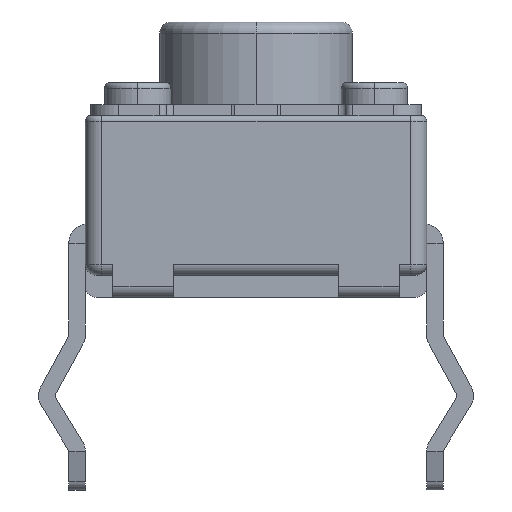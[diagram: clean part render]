
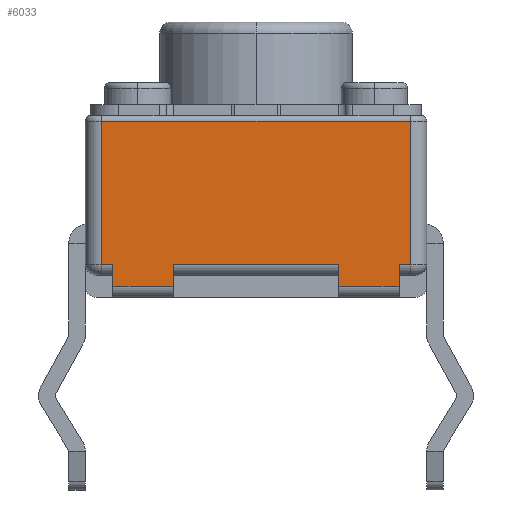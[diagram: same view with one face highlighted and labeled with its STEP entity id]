
A CAD part, front view. The second image highlights one B-rep face of the part: STEP entity #6033.
In plain terms, the highlighted planar face has unit normal (0, -1, 0).
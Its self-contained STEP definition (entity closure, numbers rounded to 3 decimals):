
#149 = CARTESIAN_POINT ( 'NONE',  ( 2.8, -3.1, 3.2 ) ) ;
#150 = DIRECTION ( 'NONE',  ( 1., 0., 0. ) ) ;
#151 = VECTOR ( 'NONE', #150, 1000. ) ;
#152 = CARTESIAN_POINT ( 'NONE',  ( 0., -3.1, 3.2 ) ) ;
#153 = LINE ( 'NONE', #152, #151 ) ;
#154 = CARTESIAN_POINT ( 'NONE',  ( -2.8, -3.1, 3.2 ) ) ;
#183 = VECTOR ( 'NONE', #227, 1000. ) ;
#184 = CARTESIAN_POINT ( 'NONE',  ( 2.6, -3.1, 0.4 ) ) ;
#185 = LINE ( 'NONE', #184, #183 ) ;
#211 = CARTESIAN_POINT ( 'NONE',  ( 2.6, -3.1, 0.6 ) ) ;
#226 = CARTESIAN_POINT ( 'NONE',  ( 2.6, -3.1, 0.2 ) ) ;
#227 = DIRECTION ( 'NONE',  ( 0., 0., -1. ) ) ;
#832 = DIRECTION ( 'NONE',  ( -1., 0., 0. ) ) ;
#833 = VECTOR ( 'NONE', #832, 1000. ) ;
#834 = CARTESIAN_POINT ( 'NONE',  ( 0., -3.1, 0.6 ) ) ;
#836 = LINE ( 'NONE', #834, #833 ) ;
#920 = CARTESIAN_POINT ( 'NONE',  ( -2.6, -3.1, 0.6 ) ) ;
#921 = CARTESIAN_POINT ( 'NONE',  ( -2.6, -3.1, 0.2 ) ) ;
#922 = DIRECTION ( 'NONE',  ( 0., 0., 1. ) ) ;
#923 = VECTOR ( 'NONE', #922, 1000. ) ;
#924 = CARTESIAN_POINT ( 'NONE',  ( -2.6, -3.1, 0.4 ) ) ;
#925 = LINE ( 'NONE', #924, #923 ) ;
#4927 = EDGE_CURVE ( 'NONE', #4961, #4941, #9669, .T. ) ;
#4941 = VERTEX_POINT ( 'NONE', #9702 ) ;
#4961 = VERTEX_POINT ( 'NONE', #9993 ) ;
#4968 = EDGE_CURVE ( 'NONE', #4971, #4972, #10172, .T. ) ;
#4971 = VERTEX_POINT ( 'NONE', #9955 ) ;
#4972 = VERTEX_POINT ( 'NONE', #9954 ) ;
#5328 = VERTEX_POINT ( 'NONE', #154 ) ;
#5330 = EDGE_CURVE ( 'NONE', #5328, #5331, #153, .T. ) ;
#5331 = VERTEX_POINT ( 'NONE', #149 ) ;
#5370 = EDGE_CURVE ( 'NONE', #5380, #5371, #185, .T. ) ;
#5371 = VERTEX_POINT ( 'NONE', #226 ) ;
#5380 = VERTEX_POINT ( 'NONE', #211 ) ;
#5581 = EDGE_CURVE ( 'NONE', #5582, #5587, #925, .T. ) ;
#5582 = VERTEX_POINT ( 'NONE', #921 ) ;
#5587 = VERTEX_POINT ( 'NONE', #920 ) ;
#5625 = EDGE_CURVE ( 'NONE', #4972, #4961, #836, .T. ) ;
#5767 = EDGE_CURVE ( 'NONE', #4941, #5582, #12768, .T. ) ;
#5857 = EDGE_CURVE ( 'NONE', #5587, #5858, #7168, .T. ) ;
#5858 = VERTEX_POINT ( 'NONE', #7208 ) ;
#5873 = EDGE_CURVE ( 'NONE', #5371, #4971, #7548, .T. ) ;
#5874 = EDGE_CURVE ( 'NONE', #5899, #5380, #7615, .T. ) ;
#5899 = VERTEX_POINT ( 'NONE', #8036 ) ;
#5920 = ORIENTED_EDGE ( 'NONE', *, *, #5625, .F. ) ;
#5955 = ORIENTED_EDGE ( 'NONE', *, *, #4968, .F. ) ;
#5956 = ORIENTED_EDGE ( 'NONE', *, *, #5873, .F. ) ;
#5961 = ORIENTED_EDGE ( 'NONE', *, *, #5581, .F. ) ;
#5969 = ORIENTED_EDGE ( 'NONE', *, *, #5767, .F. ) ;
#5970 = ORIENTED_EDGE ( 'NONE', *, *, #4927, .F. ) ;
#6033 = ADVANCED_FACE ( 'NONE', ( #8891 ), #8804, .F. ) ;
#6034 = EDGE_LOOP ( 'NONE', ( #6035, #6036, #6063, #6065, #6054, #6056, #5961, #5969, #5970, #5920, #5955, #5956 ) ) ;
#6035 = ORIENTED_EDGE ( 'NONE', *, *, #5370, .F. ) ;
#6036 = ORIENTED_EDGE ( 'NONE', *, *, #5874, .F. ) ;
#6054 = ORIENTED_EDGE ( 'NONE', *, *, #6055, .F. ) ;
#6055 = EDGE_CURVE ( 'NONE', #5858, #5328, #8991, .T. ) ;
#6056 = ORIENTED_EDGE ( 'NONE', *, *, #5857, .F. ) ;
#6063 = ORIENTED_EDGE ( 'NONE', *, *, #6064, .F. ) ;
#6064 = EDGE_CURVE ( 'NONE', #5331, #5899, #9294, .T. ) ;
#6065 = ORIENTED_EDGE ( 'NONE', *, *, #5330, .F. ) ;
#7121 = DIRECTION ( 'NONE',  ( 0., 0., 1. ) ) ;
#7145 = DIRECTION ( 'NONE',  ( -1., 0., 0. ) ) ;
#7146 = VECTOR ( 'NONE', #7145, 1000. ) ;
#7147 = CARTESIAN_POINT ( 'NONE',  ( 0., -3.1, 0.6 ) ) ;
#7168 = LINE ( 'NONE', #7147, #7146 ) ;
#7208 = CARTESIAN_POINT ( 'NONE',  ( -2.8, -3.1, 0.6 ) ) ;
#7548 = LINE ( 'NONE', #7623, #7621 ) ;
#7609 = DIRECTION ( 'NONE',  ( -1., 0., 0. ) ) ;
#7610 = VECTOR ( 'NONE', #7609, 1000. ) ;
#7612 = CARTESIAN_POINT ( 'NONE',  ( 0., -3.1, 0.6 ) ) ;
#7615 = LINE ( 'NONE', #7612, #7610 ) ;
#7619 = DIRECTION ( 'NONE',  ( -1., 0., 0. ) ) ;
#7621 = VECTOR ( 'NONE', #7619, 1000. ) ;
#7623 = CARTESIAN_POINT ( 'NONE',  ( 0., -3.1, 0.2 ) ) ;
#8036 = CARTESIAN_POINT ( 'NONE',  ( 2.8, -3.1, 0.6 ) ) ;
#8796 = DIRECTION ( 'NONE',  ( 0., 1., 0. ) ) ;
#8797 = CARTESIAN_POINT ( 'NONE',  ( 0., -3.1, 3.3 ) ) ;
#8799 = AXIS2_PLACEMENT_3D ( 'NONE', #8797, #8796, #8898 ) ;
#8804 = PLANE ( 'NONE',  #8799 ) ;
#8891 = FACE_OUTER_BOUND ( 'NONE', #6034, .T. ) ;
#8898 = DIRECTION ( 'NONE',  ( 0., 0., 1. ) ) ;
#8989 = VECTOR ( 'NONE', #7121, 1000. ) ;
#8990 = CARTESIAN_POINT ( 'NONE',  ( -2.8, -3.1, 3.3 ) ) ;
#8991 = LINE ( 'NONE', #8990, #8989 ) ;
#9180 = DIRECTION ( 'NONE',  ( 0., 0., -1. ) ) ;
#9181 = VECTOR ( 'NONE', #9180, 1000. ) ;
#9183 = CARTESIAN_POINT ( 'NONE',  ( 2.8, -3.1, 3.3 ) ) ;
#9294 = LINE ( 'NONE', #9183, #9181 ) ;
#9666 = DIRECTION ( 'NONE',  ( 0., 0., -1. ) ) ;
#9667 = VECTOR ( 'NONE', #9666, 1000. ) ;
#9668 = CARTESIAN_POINT ( 'NONE',  ( -1.5, -3.1, 0.4 ) ) ;
#9669 = LINE ( 'NONE', #9668, #9667 ) ;
#9702 = CARTESIAN_POINT ( 'NONE',  ( -1.5, -3.1, 0.2 ) ) ;
#9954 = CARTESIAN_POINT ( 'NONE',  ( 1.5, -3.1, 0.6 ) ) ;
#9955 = CARTESIAN_POINT ( 'NONE',  ( 1.5, -3.1, 0.2 ) ) ;
#9993 = CARTESIAN_POINT ( 'NONE',  ( -1.5, -3.1, 0.6 ) ) ;
#10168 = DIRECTION ( 'NONE',  ( 0., 0., 1. ) ) ;
#10169 = VECTOR ( 'NONE', #10168, 1000. ) ;
#10171 = CARTESIAN_POINT ( 'NONE',  ( 1.5, -3.1, 0.4 ) ) ;
#10172 = LINE ( 'NONE', #10171, #10169 ) ;
#12589 = DIRECTION ( 'NONE',  ( -1., 0., 0. ) ) ;
#12590 = VECTOR ( 'NONE', #12589, 1000. ) ;
#12592 = CARTESIAN_POINT ( 'NONE',  ( 0., -3.1, 0.2 ) ) ;
#12768 = LINE ( 'NONE', #12592, #12590 ) ;
